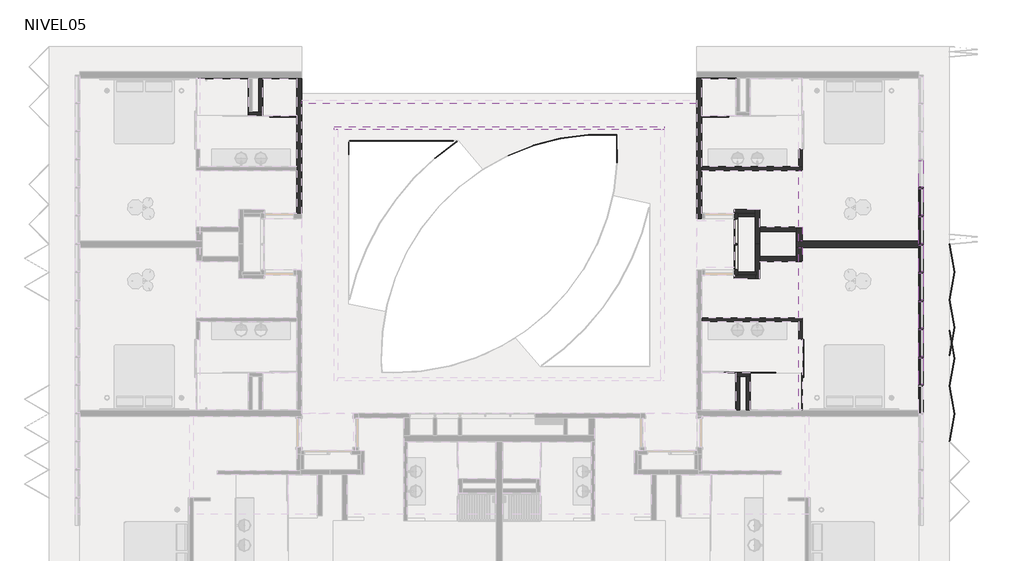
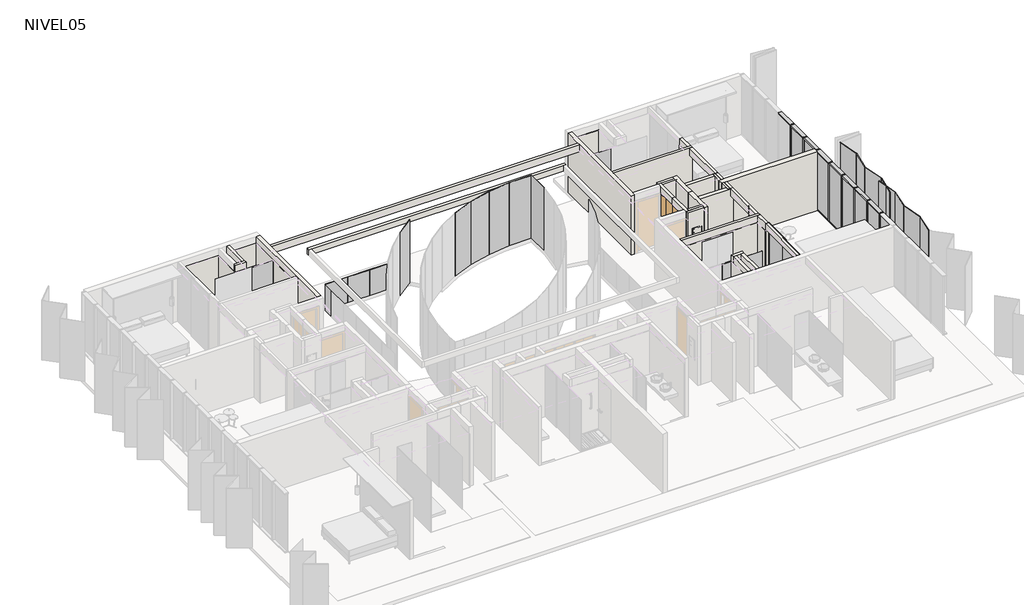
# One storey, part 6 of 8: 42 walls, 25 plates, 24 members, 2 doors.
"""IFC4 building model written with IfcOpenShell, lengths in millimetres."""

from ifc_helpers import new_model, si_unit, frame, origin, place, context, project, spatial, polyline, outline, extrude, faceted_brep, transform, mapped, element, save
from components import puerta_closet_shaft_82_5_x_224cm_10222c01, puerta_closet_shaft_82_5_x_224cm_6ba6ac82, rectangular_mullion_50_x_150mm_324a6438, rectangular_mullion_50_x_150mm_33c2bde1, folding_hd_folding_hd_10_cf69813b, panel_corredera_cr_panel_corredera_1cb9417a, panel_corredera_cr_panel_corredera_99e605cf, panel_corredera_cr_panel_corredera_8db39db7, system_panel_5ccbd7a3, system_panel_34dc83f9, system_panel_bb99d6db, system_panel_8f9a12f6, system_panel_d16f8cfc, system_panel_cr_shower_402713e2, system_panel_cr_shower_685ec66b, system_panel_glazed_6ccc6dc1

model = new_model("IFC4")

# Units and contexts
model_context = context("Model", 3, world=origin())
ifc_project = project(units=[si_unit("LENGTHUNIT", "METRE", prefix="MILLI")], contexts=[model_context])

# Site, building, storey
site = spatial("IfcSite", under=ifc_project)
building = spatial("IfcBuilding", under=site)
storey = spatial("IfcBuildingStorey", under=building, Name="NIVEL05", Elevation=10660.0)

# Doors
placement = place(None, origin())
puerta_closet_shaft_82_5_x_224cm_shape = puerta_closet_shaft_82_5_x_224cm_10222c01(model_context)
element("IfcDoor", 1, ObjectType="PUERTA CLOSET SHAFT : 82.5 x 224cm", at=placement, inside=storey, context=model_context, shape_type="MappedRepresentation", body=[
    mapped(puerta_closet_shaft_82_5_x_224cm_shape, transform((361.4065252, 5862.9454949, 10660.0), x_axis=(0.0, 1.0, 0.0), y_axis=(-1.0, 0.0, 0.0), z_axis=(0.0, 0.0, 1.0))),
])
puerta_closet_shaft_82_5_x_224cm_2_shape = puerta_closet_shaft_82_5_x_224cm_6ba6ac82(model_context)
element("IfcDoor", 2, ObjectType="PUERTA CLOSET SHAFT : 82.5 x 224cm", at=placement, inside=storey, context=model_context, shape_type="MappedRepresentation", body=[
    mapped(puerta_closet_shaft_82_5_x_224cm_2_shape, transform((361.4065252, 4404.8823532, 10660.0), x_axis=(0.0, -1.0, 0.0), y_axis=(1.0, 0.0, 0.0), z_axis=(0.0, 0.0, 1.0))),
])

# Members
rectangular_mullion_50_x_150mm_shape = rectangular_mullion_50_x_150mm_324a6438(model_context)
element("IfcMember", 3, ObjectType="Rectangular Mullion : 50 x 150mm", at=placement, inside=storey, context=model_context, shape_type="MappedRepresentation", body=[
    mapped(rectangular_mullion_50_x_150mm_shape, transform((6266.4065252, 6958.9139237, 13210.0), x_axis=(0.0, 0.0, 1.0), y_axis=(-1.0, 0.0, 0.0), z_axis=(0.0, -1.0, 0.0))),
])
element("IfcMember", 4, ObjectType="Rectangular Mullion : 50 x 150mm", at=placement, inside=storey, context=model_context, shape_type="MappedRepresentation", body=[
    mapped(rectangular_mullion_50_x_150mm_shape, transform((6266.4065252, 6058.9139237, 13210.0), x_axis=(0.0, 0.0, 1.0), y_axis=(-1.0, 0.0, 0.0), z_axis=(0.0, -1.0, 0.0))),
])
element("IfcMember", 5, ObjectType="Rectangular Mullion : 50 x 150mm", at=placement, inside=storey, context=model_context, shape_type="MappedRepresentation", body=[
    mapped(rectangular_mullion_50_x_150mm_shape, transform((6266.4065252, 5158.9139237, 13210.0), x_axis=(0.0, 0.0, 1.0), y_axis=(-1.0, 0.0, 0.0), z_axis=(0.0, -1.0, 0.0))),
])
element("IfcMember", 6, ObjectType="Rectangular Mullion : 50 x 150mm", at=placement, inside=storey, context=model_context, shape_type="MappedRepresentation", body=[
    mapped(rectangular_mullion_50_x_150mm_shape, transform((6266.4065252, 4258.9139237, 13210.0), x_axis=(0.0, 0.0, 1.0), y_axis=(-1.0, 0.0, 0.0), z_axis=(0.0, -1.0, 0.0))),
])
element("IfcMember", 7, ObjectType="Rectangular Mullion : 50 x 150mm", at=placement, inside=storey, context=model_context, shape_type="MappedRepresentation", body=[
    mapped(rectangular_mullion_50_x_150mm_shape, transform((6266.4065252, 3358.9139237, 13210.0), x_axis=(0.0, 0.0, 1.0), y_axis=(-1.0, 0.0, 0.0), z_axis=(0.0, -1.0, 0.0))),
])
element("IfcMember", 8, ObjectType="Rectangular Mullion : 50 x 150mm", at=placement, inside=storey, context=model_context, shape_type="MappedRepresentation", body=[
    mapped(rectangular_mullion_50_x_150mm_shape, transform((6266.4065252, 2458.9139237, 13210.0), x_axis=(0.0, 0.0, 1.0), y_axis=(-1.0, 0.0, 0.0), z_axis=(0.0, -1.0, 0.0))),
])
element("IfcMember", 9, ObjectType="Rectangular Mullion : 50 x 150mm", at=placement, inside=storey, context=model_context, shape_type="MappedRepresentation", body=[
    mapped(rectangular_mullion_50_x_150mm_shape, transform((6266.4065252, 1558.9139237, 13210.0), x_axis=(0.0, 0.0, 1.0), y_axis=(-1.0, 0.0, 0.0), z_axis=(0.0, -1.0, 0.0))),
])
element("IfcMember", 10, ObjectType="Rectangular Mullion : 50 x 150mm", at=placement, inside=storey, context=model_context, shape_type="MappedRepresentation", body=[
    mapped(rectangular_mullion_50_x_150mm_shape, transform((6266.4065252, 658.9139237, 13210.0), x_axis=(0.0, 0.0, 1.0), y_axis=(-1.0, 0.0, 0.0), z_axis=(0.0, -1.0, 0.0))),
])
element("IfcMember", 11, ObjectType="Rectangular Mullion : 50 x 150mm", at=placement, inside=storey, context=model_context, shape_type="MappedRepresentation", body=[
    mapped(rectangular_mullion_50_x_150mm_shape, transform((6266.4065252, 6908.9139237, 10640.0), x_axis=(0.0, 0.0, -1.0), y_axis=(-1.0, 0.0, 0.0), z_axis=(0.0, 1.0, 0.0))),
])
element("IfcMember", 12, ObjectType="Rectangular Mullion : 50 x 150mm", at=placement, inside=storey, context=model_context, shape_type="MappedRepresentation", body=[
    mapped(rectangular_mullion_50_x_150mm_shape, transform((6266.4065252, 6008.9139237, 10640.0), x_axis=(0.0, 0.0, -1.0), y_axis=(-1.0, 0.0, 0.0), z_axis=(0.0, 1.0, 0.0))),
])
element("IfcMember", 13, ObjectType="Rectangular Mullion : 50 x 150mm", at=placement, inside=storey, context=model_context, shape_type="MappedRepresentation", body=[
    mapped(rectangular_mullion_50_x_150mm_shape, transform((6266.4065252, 5108.9139237, 10640.0), x_axis=(0.0, 0.0, -1.0), y_axis=(-1.0, 0.0, 0.0), z_axis=(0.0, 1.0, 0.0))),
])
element("IfcMember", 14, ObjectType="Rectangular Mullion : 50 x 150mm", at=placement, inside=storey, context=model_context, shape_type="MappedRepresentation", body=[
    mapped(rectangular_mullion_50_x_150mm_shape, transform((6266.4065252, 4208.9139237, 10640.0), x_axis=(0.0, 0.0, -1.0), y_axis=(-1.0, 0.0, 0.0), z_axis=(0.0, 1.0, 0.0))),
])
element("IfcMember", 15, ObjectType="Rectangular Mullion : 50 x 150mm", at=placement, inside=storey, context=model_context, shape_type="MappedRepresentation", body=[
    mapped(rectangular_mullion_50_x_150mm_shape, transform((6266.4065252, 3308.9139237, 10640.0), x_axis=(0.0, 0.0, -1.0), y_axis=(-1.0, 0.0, 0.0), z_axis=(0.0, 1.0, 0.0))),
])
element("IfcMember", 16, ObjectType="Rectangular Mullion : 50 x 150mm", at=placement, inside=storey, context=model_context, shape_type="MappedRepresentation", body=[
    mapped(rectangular_mullion_50_x_150mm_shape, transform((6266.4065252, 2408.9139237, 10640.0), x_axis=(0.0, 0.0, -1.0), y_axis=(-1.0, 0.0, 0.0), z_axis=(0.0, 1.0, 0.0))),
])
element("IfcMember", 17, ObjectType="Rectangular Mullion : 50 x 150mm", at=placement, inside=storey, context=model_context, shape_type="MappedRepresentation", body=[
    mapped(rectangular_mullion_50_x_150mm_shape, transform((6266.4065252, 1508.9139237, 10640.0), x_axis=(0.0, 0.0, -1.0), y_axis=(-1.0, 0.0, 0.0), z_axis=(0.0, 1.0, 0.0))),
])
element("IfcMember", 18, ObjectType="Rectangular Mullion : 50 x 150mm", at=placement, inside=storey, context=model_context, shape_type="MappedRepresentation", body=[
    mapped(rectangular_mullion_50_x_150mm_shape, transform((6266.4065252, 608.9139237, 10640.0), x_axis=(0.0, 0.0, -1.0), y_axis=(-1.0, 0.0, 0.0), z_axis=(0.0, 1.0, 0.0))),
])
rectangular_mullion_50_x_150mm_2_shape = rectangular_mullion_50_x_150mm_33c2bde1(model_context)
element("IfcMember", 19, ObjectType="Rectangular Mullion : 50 x 150mm", at=placement, inside=storey, context=model_context, shape_type="MappedRepresentation", body=[
    mapped(rectangular_mullion_50_x_150mm_2_shape, transform((6266.4065252, 6933.9139237, 10640.0), x_axis=(0.0, -1.0, 0.0), y_axis=(-1.0, 0.0, 0.0), z_axis=(0.0, 0.0, -1.0))),
])
element("IfcMember", 20, ObjectType="Rectangular Mullion : 50 x 150mm", at=placement, inside=storey, context=model_context, shape_type="MappedRepresentation", body=[
    mapped(rectangular_mullion_50_x_150mm_2_shape, transform((6266.4065252, 6033.9139237, 10640.0), x_axis=(0.0, -1.0, 0.0), y_axis=(-1.0, 0.0, 0.0), z_axis=(0.0, 0.0, -1.0))),
])
element("IfcMember", 21, ObjectType="Rectangular Mullion : 50 x 150mm", at=placement, inside=storey, context=model_context, shape_type="MappedRepresentation", body=[
    mapped(rectangular_mullion_50_x_150mm_2_shape, transform((6266.4065252, 5133.9139237, 10640.0), x_axis=(0.0, -1.0, 0.0), y_axis=(-1.0, 0.0, 0.0), z_axis=(0.0, 0.0, -1.0))),
])
element("IfcMember", 22, ObjectType="Rectangular Mullion : 50 x 150mm", at=placement, inside=storey, context=model_context, shape_type="MappedRepresentation", body=[
    mapped(rectangular_mullion_50_x_150mm_2_shape, transform((6266.4065252, 4233.9139237, 10640.0), x_axis=(0.0, -1.0, 0.0), y_axis=(-1.0, 0.0, 0.0), z_axis=(0.0, 0.0, -1.0))),
])
element("IfcMember", 23, ObjectType="Rectangular Mullion : 50 x 150mm", at=placement, inside=storey, context=model_context, shape_type="MappedRepresentation", body=[
    mapped(rectangular_mullion_50_x_150mm_2_shape, transform((6266.4065252, 3333.9139237, 10640.0), x_axis=(0.0, -1.0, 0.0), y_axis=(-1.0, 0.0, 0.0), z_axis=(0.0, 0.0, -1.0))),
])
element("IfcMember", 24, ObjectType="Rectangular Mullion : 50 x 150mm", at=placement, inside=storey, context=model_context, shape_type="MappedRepresentation", body=[
    mapped(rectangular_mullion_50_x_150mm_2_shape, transform((6266.4065252, 2433.9139237, 10640.0), x_axis=(0.0, -1.0, 0.0), y_axis=(-1.0, 0.0, 0.0), z_axis=(0.0, 0.0, -1.0))),
])
element("IfcMember", 25, ObjectType="Rectangular Mullion : 50 x 150mm", at=placement, inside=storey, context=model_context, shape_type="MappedRepresentation", body=[
    mapped(rectangular_mullion_50_x_150mm_2_shape, transform((6266.4065252, 1533.9139237, 10640.0), x_axis=(0.0, -1.0, 0.0), y_axis=(-1.0, 0.0, 0.0), z_axis=(0.0, 0.0, -1.0))),
])
element("IfcMember", 26, ObjectType="Rectangular Mullion : 50 x 150mm", at=placement, inside=storey, context=model_context, shape_type="MappedRepresentation", body=[
    mapped(rectangular_mullion_50_x_150mm_2_shape, transform((6266.4065252, 633.9139237, 10640.0), x_axis=(0.0, -1.0, 0.0), y_axis=(-1.0, 0.0, 0.0), z_axis=(0.0, 0.0, -1.0))),
])

# Plates
folding_hd_folding_hd_10_shape = folding_hd_folding_hd_10_cf69813b(model_context)
element("IfcPlate", 27, ObjectType="FOLDING HD : FOLDING HD 10", at=placement, inside=storey, context=model_context, shape_type="MappedRepresentation", body=[
    mapped(folding_hd_folding_hd_10_shape, transform((7166.4065252, 1983.9139241, 10640.0), x_axis=(0.0, -1.0, 0.0), y_axis=(1.0, 0.0, 0.0), z_axis=(0.0, 0.0, 1.0))),
])
panel_corredera_cr_panel_corredera_shape = panel_corredera_cr_panel_corredera_1cb9417a(model_context)
element("IfcPlate", 28, ObjectType="PANEL CORREDERA : CR_PANEL CORREDERA", at=placement, inside=storey, context=model_context, shape_type="MappedRepresentation", body=[
    mapped(panel_corredera_cr_panel_corredera_shape, transform((-372.2601415, 9233.9139241, 10660.0), x_axis=(1.0, 0.0, 0.0), y_axis=(0.0, 1.0, 0.0), z_axis=(0.0, 0.0, 1.0))),
])
panel_corredera_cr_panel_corredera_2_shape = panel_corredera_cr_panel_corredera_99e605cf(model_context)
element("IfcPlate", 29, ObjectType="PANEL CORREDERA : CR_PANEL CORREDERA", at=placement, inside=storey, context=model_context, shape_type="MappedRepresentation", body=[
    mapped(panel_corredera_cr_panel_corredera_2_shape, transform((-13994.9268082, 9233.9139241, 10660.0), x_axis=(-1.0, 0.0, 0.0), y_axis=(0.0, -1.0, 0.0), z_axis=(0.0, 0.0, 1.0))),
])
panel_corredera_cr_panel_corredera_3_shape = panel_corredera_cr_panel_corredera_8db39db7(model_context)
element("IfcPlate", 30, ObjectType="PANEL CORREDERA : CR_PANEL CORREDERA", at=placement, inside=storey, context=model_context, shape_type="MappedRepresentation", body=[
    mapped(panel_corredera_cr_panel_corredera_3_shape, transform((2481.4065252, 1563.9139241, 10660.0), x_axis=(0.0, -1.0, 0.0), y_axis=(1.0, 0.0, 0.0), z_axis=(0.0, 0.0, 1.0))),
])
system_panel_shape = system_panel_5ccbd7a3(model_context)
element("IfcPlate", 31, ObjectType="System Panel : CR-BARANDA", at=placement, inside=storey, context=model_context, shape_type="MappedRepresentation", body=[
    mapped(system_panel_shape, transform((-11507.3434747, 8433.9139241, 10660.0), x_axis=(1.0, 0.0, 0.0), y_axis=(0.0, 1.0, 0.0), z_axis=(0.0, 0.0, 1.0))),
])
element("IfcPlate", 32, ObjectType="System Panel : CR-BARANDA", at=placement, inside=storey, context=model_context, shape_type="MappedRepresentation", body=[
    mapped(system_panel_shape, transform((-10607.3434745, 8433.9139241, 10660.0), x_axis=(1.0, 0.0, 0.0), y_axis=(0.0, 1.0, 0.0), z_axis=(0.0, 0.0, 1.0))),
])
element("IfcPlate", 33, ObjectType="System Panel : CR-BARANDA", at=placement, inside=storey, context=model_context, shape_type="MappedRepresentation", body=[
    mapped(system_panel_shape, transform((-9707.3434745, 8433.9139241, 10660.0), x_axis=(1.0, 0.0, 0.0), y_axis=(0.0, 1.0, 0.0), z_axis=(0.0, 0.0, 1.0))),
])
system_panel_2_shape = system_panel_34dc83f9(model_context)
element("IfcPlate", 34, ObjectType="System Panel : CR-BARANDA", at=placement, inside=storey, context=model_context, shape_type="MappedRepresentation", body=[
    mapped(system_panel_2_shape, transform((-8954.8434747, 8433.9139241, 10660.0), x_axis=(1.0, 0.0, 0.0), y_axis=(0.0, 1.0, 0.0), z_axis=(0.0, 0.0, 1.0))),
])
system_panel_3_shape = system_panel_bb99d6db(model_context)
element("IfcPlate", 35, ObjectType="System Panel : CR-BARANDA", at=placement, inside=storey, context=model_context, shape_type="MappedRepresentation", body=[
    mapped(system_panel_3_shape, transform((-11983.5934748, 8189.0707631, 10660.0), x_axis=(0.0, 1.0, 0.0), y_axis=(-1.0, 0.0, 0.0), z_axis=(0.0, 0.0, 1.0))),
])
system_panel_4_shape = system_panel_8f9a12f6(model_context)
element("IfcPlate", 36, ObjectType="System Panel : CR-BARANDA", at=placement, inside=storey, context=model_context, shape_type="MappedRepresentation", body=[
    mapped(system_panel_4_shape, transform((-3889.1158289, 8621.3139577, 10660.0), x_axis=(-0.9999985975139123, 0.0016748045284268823, 0.0), y_axis=(-0.0016748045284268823, -0.9999985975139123, 0.0), z_axis=(0.0, 0.0, 1.0))),
])
system_panel_5_shape = system_panel_d16f8cfc(model_context)
element("IfcPlate", 37, ObjectType="System Panel : CR-BARANDA", at=placement, inside=storey, context=model_context, shape_type="MappedRepresentation", body=[
    mapped(system_panel_5_shape, transform((-4785.5416487, 8565.4687941, 10660.0), x_axis=(-0.9920587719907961, -0.1257751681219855, 0.0), y_axis=(0.1257751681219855, -0.9920587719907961, 0.0), z_axis=(0.0, 0.0, 1.0))),
])
element("IfcPlate", 38, ObjectType="System Panel : CR-BARANDA", at=placement, inside=storey, context=model_context, shape_type="MappedRepresentation", body=[
    mapped(system_panel_5_shape, transform((-5667.541953, 8395.8415861, 10660.0), x_axis=(-0.9679419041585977, -0.25117418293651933, 0.0), y_axis=(0.25117418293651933, -0.9679419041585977, 0.0), z_axis=(0.0, 0.0, 1.0))),
])
element("IfcPlate", 39, ObjectType="System Panel : CR-BARANDA", at=placement, inside=storey, context=model_context, shape_type="MappedRepresentation", body=[
    mapped(system_panel_5_shape, transform((-6520.7343753, 8115.1983662, 10660.0), x_axis=(-0.9280412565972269, -0.37247741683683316, 0.0), y_axis=(0.37247741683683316, -0.9280412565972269, 0.0), z_axis=(0.0, 0.0, 1.0))),
])
element("IfcPlate", 40, ObjectType="System Panel : CR-BARANDA", at=placement, inside=storey, context=model_context, shape_type="MappedRepresentation", body=[
    mapped(system_panel_4_shape, transform((-8888.7580194, 8141.1767332, 10660.0), x_axis=(-0.7957364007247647, -0.6056431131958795, 0.0), y_axis=(0.6056431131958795, -0.7957364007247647, 0.0), z_axis=(0.0, 0.0, 1.0))),
])
element("IfcPlate", 41, ObjectType="System Panel : CR-BARANDA", at=placement, inside=storey, context=model_context, shape_type="MappedRepresentation", body=[
    mapped(system_panel_4_shape, transform((-3433.3235969, 8170.5975795, 10660.0), x_axis=(0.012873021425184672, -0.9999171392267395, 0.0), y_axis=(0.9999171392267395, 0.012873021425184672, 0.0), z_axis=(0.0, 0.0, 1.0))),
])
system_panel_cr_shower_shape = system_panel_cr_shower_402713e2(model_context)
element("IfcPlate", 42, ObjectType="System Panel : CR-SHOWER", at=placement, inside=storey, context=model_context, shape_type="MappedRepresentation", body=[
    mapped(system_panel_cr_shower_shape, transform((811.7398585, 1033.9139241, 10660.0), x_axis=(-1.0, 0.0, 0.0), y_axis=(0.0, -1.0, 0.0), z_axis=(0.0, 0.0, 1.0))),
])
system_panel_cr_shower_2_shape = system_panel_cr_shower_685ec66b(model_context)
element("IfcPlate", 43, ObjectType="System Panel : CR-SHOWER", at=placement, inside=storey, context=model_context, shape_type="MappedRepresentation", body=[
    mapped(system_panel_cr_shower_2_shape, transform((2481.4065252, 433.9139241, 10660.0), x_axis=(0.0, -1.0, 0.0), y_axis=(1.0, 0.0, 0.0), z_axis=(0.0, 0.0, 1.0))),
])
system_panel_glazed_shape = system_panel_glazed_6ccc6dc1(model_context)
element("IfcPlate", 44, ObjectType="System Panel : Glazed", at=placement, inside=storey, context=model_context, shape_type="MappedRepresentation", body=[
    mapped(system_panel_glazed_shape, transform((6266.4065252, 6483.9139237, 10690.0), x_axis=(0.0, -1.0, 0.0), y_axis=(1.0, 0.0, 0.0), z_axis=(0.0, 0.0, 1.0))),
])
element("IfcPlate", 45, ObjectType="System Panel : Glazed", at=placement, inside=storey, context=model_context, shape_type="MappedRepresentation", body=[
    mapped(system_panel_glazed_shape, transform((6266.4065252, 5583.9139237, 10690.0), x_axis=(0.0, -1.0, 0.0), y_axis=(1.0, 0.0, 0.0), z_axis=(0.0, 0.0, 1.0))),
])
element("IfcPlate", 46, ObjectType="System Panel : Glazed", at=placement, inside=storey, context=model_context, shape_type="MappedRepresentation", body=[
    mapped(system_panel_glazed_shape, transform((6266.4065252, 4683.9139237, 10690.0), x_axis=(0.0, -1.0, 0.0), y_axis=(1.0, 0.0, 0.0), z_axis=(0.0, 0.0, 1.0))),
])
element("IfcPlate", 47, ObjectType="System Panel : Glazed", at=placement, inside=storey, context=model_context, shape_type="MappedRepresentation", body=[
    mapped(system_panel_glazed_shape, transform((6266.4065252, 3783.9139237, 10690.0), x_axis=(0.0, -1.0, 0.0), y_axis=(1.0, 0.0, 0.0), z_axis=(0.0, 0.0, 1.0))),
])
element("IfcPlate", 48, ObjectType="System Panel : Glazed", at=placement, inside=storey, context=model_context, shape_type="MappedRepresentation", body=[
    mapped(system_panel_glazed_shape, transform((6266.4065252, 2883.9139237, 10690.0), x_axis=(0.0, -1.0, 0.0), y_axis=(1.0, 0.0, 0.0), z_axis=(0.0, 0.0, 1.0))),
])
element("IfcPlate", 49, ObjectType="System Panel : Glazed", at=placement, inside=storey, context=model_context, shape_type="MappedRepresentation", body=[
    mapped(system_panel_glazed_shape, transform((6266.4065252, 1983.9139237, 10690.0), x_axis=(0.0, -1.0, 0.0), y_axis=(1.0, 0.0, 0.0), z_axis=(0.0, 0.0, 1.0))),
])
element("IfcPlate", 50, ObjectType="System Panel : Glazed", at=placement, inside=storey, context=model_context, shape_type="MappedRepresentation", body=[
    mapped(system_panel_glazed_shape, transform((6266.4065252, 1083.9139237, 10690.0), x_axis=(0.0, -1.0, 0.0), y_axis=(1.0, 0.0, 0.0), z_axis=(0.0, 0.0, 1.0))),
])
element("IfcPlate", 51, ObjectType="System Panel : Glazed", at=placement, inside=storey, context=model_context, shape_type="MappedRepresentation", body=[
    mapped(system_panel_glazed_shape, transform((6266.4065252, 183.9139237, 10690.0), x_axis=(0.0, -1.0, 0.0), y_axis=(1.0, 0.0, 0.0), z_axis=(0.0, 0.0, 1.0))),
])

# Walls
element("IfcWall", 52, ObjectType="SCV.TI.A.120.120.122.46.2", at=placement, inside=storey, context=model_context, shape_type="Brep", body=[
    faceted_brep([(-15173.5934748, 9233.9139241, 10640.0), (-14733.5934748, 9233.9139241, 10640.0), (-14733.5934748, 9233.9139241, 13210.0), (-15173.5934748, 9233.9139241, 13210.0), (-15173.5934748, 9353.9139241, 10640.0), (-15173.5934748, 9353.9139241, 13210.0), (-15053.5934748, 9353.9139241, 13210.0), (-14853.5934748, 9353.9139241, 13210.0), (-14733.5934748, 9353.9139241, 13210.0), (-14733.5934748, 9353.9139241, 10640.0), (-14853.5934748, 9353.9139241, 10640.0), (-15053.5934748, 9353.9139241, 10640.0)], [[[0, 1, 2, 3]], [[4, 5, 6, 7, 8, 9, 10, 11]], [[1, 0, 4, 11, 10, 9]], [[3, 2, 8, 7, 6, 5]], [[2, 1, 9, 8]], [[0, 3, 5, 4]]]),
])
element("IfcWall", 53, ObjectType="SCV.TI.A.120.120.122.46.2", at=placement, inside=storey, context=model_context, shape_type="SweptSolid", body=[
    extrude(outline(polyline([(-14733.5934748, 10433.9139241), (-14733.5934748, 9353.9139241), (-14853.5934748, 9353.9139241), (-14853.5934748, 10433.9139241), (-14733.5934748, 10433.9139241)])), frame((0.0, 0.0, 10640.0), z_axis=(0.0, 0.0, 1.0), x_axis=(1.0, 0.0, 0.0)), (0.0, 0.0, 1.0), 2570.0),
])
element("IfcWall", 54, ObjectType="REV-PORCELANATO_60*60", at=placement, inside=storey, context=model_context, shape_type="Brep", body=[
    faceted_brep([(-13633.5934748, 7603.9139241, 10680.0), (-13633.5934748, 10433.9139241, 10680.0), (-13633.5934748, 10433.9139241, 12920.0), (-13633.5934748, 7603.9139241, 12920.0), (-13643.5934748, 7603.9139241, 10680.0), (-13643.5934748, 7603.9139241, 12920.0), (-13643.5934748, 10423.9139241, 12920.0), (-13643.5934748, 10433.9139241, 12920.0), (-13643.5934748, 10433.9139241, 10680.0), (-13643.5934748, 10423.9139241, 10680.0)], [[[0, 1, 2, 3]], [[4, 5, 6, 7, 8, 9]], [[1, 0, 4, 9, 8]], [[3, 2, 7, 6, 5]], [[2, 1, 8, 7]], [[0, 3, 5, 4]]]),
])
element("IfcWall", 55, ObjectType="REV-PORCELANATO_60*60", at=placement, inside=storey, context=model_context, shape_type="Brep", body=[
    faceted_brep([(-13643.5934748, 10433.9139241, 10680.0), (-14733.5934748, 10433.9139241, 10680.0), (-14733.5934748, 10433.9139241, 12920.0), (-13643.5934748, 10433.9139241, 12920.0), (-13643.5934748, 10423.9139241, 10680.0), (-13643.5934748, 10423.9139241, 12920.0), (-14723.5934748, 10423.9139241, 12920.0), (-14733.5934748, 10423.9139241, 12920.0), (-14733.5934748, 10423.9139241, 10680.0), (-14723.5934748, 10423.9139241, 10680.0)], [[[0, 1, 2, 3]], [[4, 5, 6, 7, 8, 9]], [[1, 0, 4, 9, 8]], [[3, 2, 7, 6, 5]], [[2, 1, 8, 7]], [[0, 3, 5, 4]]]),
])
element("IfcWall", 56, ObjectType="REV-PORCELANATO_60*60", at=placement, inside=storey, context=model_context, shape_type="SweptSolid", body=[
    extrude(outline(polyline([(-14723.5934748, 10423.9139241), (-14723.5934748, 9233.9139241), (-14733.5934748, 9233.9139241), (-14733.5934748, 10423.9139241), (-14723.5934748, 10423.9139241)])), frame((0.0, 0.0, 10680.0), z_axis=(0.0, 0.0, 1.0), x_axis=(1.0, 0.0, 0.0)), (0.0, 0.0, 1.0), 2240.0),
])
element("IfcWall", 57, ObjectType="REV-PORCELANATO_60*60", at=placement, inside=storey, context=model_context, shape_type="Brep", body=[
    faceted_brep([(-15173.5934748, 9233.9139241, 10660.0), (-15173.5934748, 10433.9139241, 10660.0), (-15173.5934748, 10433.9139241, 12920.0), (-15173.5934748, 9233.9139241, 12920.0), (-15183.5934748, 9233.9139241, 10660.0), (-15183.5934748, 9233.9139241, 12920.0), (-15183.5934748, 10423.9139241, 12920.0), (-15183.5934748, 10433.9139241, 12920.0), (-15183.5934748, 10433.9139241, 10660.0), (-15183.5934748, 10423.9139241, 10660.0)], [[[0, 1, 2, 3]], [[4, 5, 6, 7, 8, 9]], [[1, 0, 4, 9, 8]], [[3, 2, 7, 6, 5]], [[0, 3, 5, 4]], [[2, 1, 8, 7]]]),
])
element("IfcWall", 58, ObjectType="REV-PORCELANATO_60*60", at=placement, inside=storey, context=model_context, shape_type="SweptSolid", body=[
    extrude(outline(polyline([(-16793.5934748, 10433.9139241), (-15183.5934748, 10433.9139241), (-15183.5934748, 10423.9139241), (-16793.5934748, 10423.9139241), (-16793.5934748, 10433.9139241)])), frame((0.0, 0.0, 10660.0), z_axis=(0.0, 0.0, 1.0), x_axis=(1.0, 0.0, 0.0)), (0.0, 0.0, 1.0), 2260.0),
])
element("IfcWall", 59, ObjectType="SCV.TI.A.150.120.212.47.1", at=placement, inside=storey, context=model_context, shape_type="Brep", body=[
    faceted_brep([(-13483.5934748, 6108.9139241, 10640.0), (-13483.5934748, 10433.9139241, 10640.0), (-13483.5934748, 10433.9139241, 13210.0), (-13483.5934748, 9733.9139241, 13210.0), (-13483.5934748, 9623.9139241, 13210.0), (-13483.5934748, 6108.9139241, 13210.0), (-13633.5934748, 6108.9139241, 10640.0), (-13633.5934748, 6108.9139241, 13210.0), (-13633.5934748, 7483.9139241, 13210.0), (-13633.5934748, 7593.9139241, 13210.0), (-13633.5934748, 10433.9139241, 13210.0), (-13633.5934748, 10433.9139241, 10640.0), (-13633.5934748, 7593.9139241, 10640.0), (-13633.5934748, 7483.9139241, 10640.0)], [[[0, 1, 2, 3, 4, 5]], [[6, 7, 8, 9, 10, 11, 12, 13]], [[1, 0, 6, 13, 12, 11]], [[5, 4, 3, 2, 10, 9, 8, 7]], [[2, 1, 11, 10]], [[0, 5, 7, 6]]]),
])
element("IfcWall", 60, ObjectType="SCV.TI.A.150.120.212.47.1", at=placement, inside=storey, context=model_context, shape_type="Brep", body=[
    faceted_brep([(-733.5934748, 5958.9139241, 10640.0), (-733.5934748, 6108.9139241, 10640.0), (-733.5934748, 7483.9139241, 10640.0), (-733.5934748, 7593.9139241, 10640.0), (-733.5934748, 10433.9139241, 10640.0), (-733.5934748, 10433.9139241, 13210.0), (-733.5934748, 7593.9139241, 13210.0), (-733.5934748, 7483.9139241, 13210.0), (-733.5934748, 6108.9139241, 13210.0), (-733.5934748, 5958.9139241, 13210.0), (-883.5934748, 5958.9139241, 10640.0), (-883.5934748, 5958.9139241, 13210.0), (-883.5934748, 9623.9139241, 13210.0), (-883.5934748, 9733.9139241, 13210.0), (-883.5934748, 10433.9139241, 13210.0), (-883.5934748, 10433.9139241, 10640.0)], [[[0, 1, 2, 3, 4, 5, 6, 7, 8, 9]], [[10, 11, 12, 13, 14, 15]], [[4, 3, 2, 1, 0, 10, 15]], [[9, 8, 7, 6, 5, 14, 13, 12, 11]], [[0, 9, 11, 10]], [[5, 4, 15, 14]]]),
])
element("IfcWall", 61, ObjectType="SCV.TI.A.110.090.143.47.1 2", at=placement, inside=storey, context=model_context, shape_type="Brep", body=[
    faceted_brep([(-12443.5934748, 8893.9139241, 13210.0), (-1923.5934748, 8893.9139241, 13210.0), (-1923.5934748, 8893.9139241, 12965.0), (-12443.5934748, 8893.9139241, 12965.0), (-1923.5934748, 8783.9139241, 13210.0), (-2033.5934748, 8783.9139241, 13210.0), (-12333.5934748, 8783.9139241, 13210.0), (-12443.5934748, 8783.9139241, 13210.0), (-12443.5934748, 8783.9139241, 12965.0), (-12333.5934748, 8783.9139241, 12965.0), (-2033.5934748, 8783.9139241, 12965.0), (-1923.5934748, 8783.9139241, 12965.0)], [[[0, 1, 2, 3]], [[4, 5, 6, 7, 8, 9, 10, 11]], [[1, 0, 7, 6, 5, 4]], [[7, 0, 3, 8]], [[1, 4, 11, 2]], [[3, 2, 11, 10, 9, 8]]]),
])
element("IfcWall", 62, ObjectType="SCV.TI.A.110.090.143.47.1 2", at=placement, inside=storey, context=model_context, shape_type="SweptSolid", body=[
    extrude(outline(polyline([(-13483.5934748, 9733.9139241), (-883.5934748, 9733.9139241), (-883.5934748, 9623.9139241), (-13483.5934748, 9623.9139241), (-13483.5934748, 9733.9139241)])), frame((0.0, 0.0, 12910.0), z_axis=(0.0, 0.0, 1.0), x_axis=(1.0, 0.0, 0.0)), (0.0, 0.0, 1.0), 300.0),
])
element("IfcWall", 63, ObjectType="SCV.TI.A.110.090.143.47.1", at=placement, inside=storey, context=model_context, shape_type="Brep", body=[
    faceted_brep([(306.4065252, 6123.9139241, 10640.0), (306.4065252, 6108.9139241, 10640.0), (306.4065252, 5958.9139241, 10640.0), (306.4065252, 5128.3504322, 10640.0), (306.4065252, 5128.3504322, 10660.0), (306.4065252, 5958.9139241, 10660.0), (306.4065252, 5958.9139241, 12900.0), (306.4065252, 5128.3504322, 12900.0), (306.4065252, 5128.3504322, 13210.0), (306.4065252, 5958.9139241, 13210.0), (306.4065252, 6108.9139241, 13210.0), (306.4065252, 6123.9139241, 13210.0), (416.4065252, 5128.3504322, 10640.0), (416.4065252, 6013.9139241, 10640.0), (416.4065252, 6123.9139241, 10640.0), (416.4065252, 6123.9139241, 13210.0), (416.4065252, 6013.9139241, 13210.0), (416.4065252, 5128.3504322, 13210.0), (416.4065252, 5128.3504322, 12900.0), (416.4065252, 5958.9139241, 12900.0), (416.4065252, 5958.9139241, 10660.0), (416.4065252, 5128.3504322, 10660.0)], [[[0, 1, 2, 3, 4, 5, 6, 7, 8, 9, 10, 11]], [[12, 13, 14, 15, 16, 17, 18, 19, 20, 21]], [[3, 2, 1, 0, 14, 13, 12]], [[17, 8, 7, 18]], [[3, 12, 21, 4]], [[11, 10, 9, 8, 17, 16, 15]], [[6, 19, 18, 7]], [[20, 5, 4, 21]], [[5, 20, 19, 6]], [[0, 11, 15, 14]]]),
])
element("IfcWall", 64, ObjectType="SCV.TI.A.110.090.143.47.1", at=placement, inside=storey, context=model_context, shape_type="Brep", body=[
    faceted_brep([(-733.5934748, 7483.9139241, 10640.0), (2481.4065252, 7483.9139241, 10640.0), (2481.4065252, 7483.9139241, 12910.0), (2481.4065252, 7483.9139241, 13210.0), (2371.4065252, 7483.9139241, 13210.0), (-733.5934748, 7483.9139241, 13210.0), (-733.5934748, 7593.9139241, 10640.0), (-733.5934748, 7593.9139241, 13210.0), (2371.4065252, 7593.9139241, 13210.0), (2481.4065252, 7593.9139241, 13210.0), (2481.4065252, 7593.9139241, 10640.0), (2371.4065252, 7593.9139241, 10640.0)], [[[0, 1, 2, 3, 4, 5]], [[6, 7, 8, 9, 10, 11]], [[1, 0, 6, 11, 10]], [[5, 4, 3, 9, 8, 7]], [[3, 2, 1, 10, 9]], [[0, 5, 7, 6]]]),
])
element("IfcWall", 65, ObjectType="SCV.TI.A.110.090.143.47.1", at=placement, inside=storey, context=model_context, shape_type="Brep", body=[
    faceted_brep([(306.4065252, 6123.9139241, 10640.0), (416.4065252, 6123.9139241, 10640.0), (976.4065252, 6123.9139241, 10640.0), (976.4065252, 6123.9139241, 13210.0), (416.4065252, 6123.9139241, 13210.0), (306.4065252, 6123.9139241, 13210.0), (306.4065252, 6233.9139241, 10640.0), (306.4065252, 6233.9139241, 13210.0), (976.4065252, 6233.9139241, 13210.0), (976.4065252, 6233.9139241, 10640.0)], [[[0, 1, 2, 3, 4, 5]], [[6, 7, 8, 9]], [[2, 1, 0, 6, 9]], [[5, 4, 3, 8, 7]], [[0, 5, 7, 6]], [[3, 2, 9, 8]]]),
])
element("IfcWall", 66, ObjectType="SCV.TI.A.110.090.143.47.1", at=placement, inside=storey, context=model_context, shape_type="Brep", body=[
    faceted_brep([(2481.4065252, 7593.9139241, 13210.0), (2481.4065252, 7593.9139241, 10640.0), (2481.4065252, 8173.9139241, 10640.0), (2481.4065252, 8173.9139241, 13210.0), (2371.4065252, 7593.9139241, 10640.0), (2371.4065252, 7593.9139241, 13210.0), (2371.4065252, 8173.9139241, 13210.0), (2371.4065252, 8173.9139241, 12965.0), (2371.4065252, 8173.9139241, 10640.0)], [[[0, 1, 2, 3]], [[4, 5, 6, 7, 8]], [[2, 1, 4, 8]], [[3, 2, 8, 7, 6]], [[0, 3, 6, 5]], [[0, 5, 4, 1]]]),
])
element("IfcWall", 67, ObjectType="REV-PORCELANATO_60*60", at=placement, inside=storey, context=model_context, shape_type="Brep", body=[
    faceted_brep([(2371.4065252, 7593.9139241, 10680.0), (2371.4065252, 8173.9139241, 10680.0), (2371.4065252, 8173.9139241, 12920.0), (2371.4065252, 7593.9139241, 12920.0), (2361.4065252, 7593.9139241, 10680.0), (2361.4065252, 7593.9139241, 12920.0), (2361.4065252, 7603.9139241, 12920.0), (2361.4065252, 8173.9139241, 12920.0), (2361.4065252, 8173.9139241, 10680.0), (2361.4065252, 7603.9139241, 10680.0)], [[[0, 1, 2, 3]], [[4, 5, 6, 7, 8, 9]], [[1, 0, 4, 9, 8]], [[2, 1, 8, 7]], [[3, 2, 7, 6, 5]], [[0, 3, 5, 4]]]),
])
element("IfcWall", 68, ObjectType="REV-PORCELANATO_60*60", at=placement, inside=storey, context=model_context, shape_type="Brep", body=[
    faceted_brep([(-733.5934748, 7593.9139241, 10680.0), (2361.4065252, 7593.9139241, 10680.0), (2361.4065252, 7593.9139241, 12920.0), (-733.5934748, 7593.9139241, 12920.0), (-733.5934748, 7603.9139241, 10680.0), (-733.5934748, 7603.9139241, 12920.0), (-723.5934748, 7603.9139241, 12920.0), (2361.4065252, 7603.9139241, 12920.0), (2361.4065252, 7603.9139241, 10680.0), (-723.5934748, 7603.9139241, 10680.0)], [[[0, 1, 2, 3]], [[4, 5, 6, 7, 8, 9]], [[1, 0, 4, 9, 8]], [[3, 2, 7, 6, 5]], [[0, 3, 5, 4]], [[2, 1, 8, 7]]]),
])
element("IfcWall", 69, ObjectType="REV-PORCELANATO_60*60", at=placement, inside=storey, context=model_context, shape_type="Brep", body=[
    faceted_brep([(-723.5934748, 7603.9139241, 10680.0), (-723.5934748, 10423.9139241, 10680.0), (-723.5934748, 10433.9139241, 10680.0), (-723.5934748, 10433.9139241, 12920.0), (-723.5934748, 10423.9139241, 12920.0), (-723.5934748, 7603.9139241, 12920.0), (-733.5934748, 7603.9139241, 10680.0), (-733.5934748, 7603.9139241, 12920.0), (-733.5934748, 10433.9139241, 12920.0), (-733.5934748, 10433.9139241, 10680.0)], [[[0, 1, 2, 3, 4, 5]], [[6, 7, 8, 9]], [[2, 1, 0, 6, 9]], [[5, 4, 3, 8, 7]], [[3, 2, 9, 8]], [[0, 5, 7, 6]]]),
])
element("IfcWall", 70, ObjectType="REV-PORCELANATO_60*60", at=placement, inside=storey, context=model_context, shape_type="Brep", body=[
    faceted_brep([(-723.5934748, 10423.9139241, 10680.0), (356.4065252, 10423.9139241, 10680.0), (366.4065252, 10423.9139241, 10680.0), (366.4065252, 10423.9139241, 12920.0), (356.4065252, 10423.9139241, 12920.0), (-723.5934748, 10423.9139241, 12920.0), (-723.5934748, 10433.9139241, 10680.0), (-723.5934748, 10433.9139241, 12920.0), (366.4065252, 10433.9139241, 12920.0), (366.4065252, 10433.9139241, 10680.0)], [[[0, 1, 2, 3, 4, 5]], [[6, 7, 8, 9]], [[2, 1, 0, 6, 9]], [[5, 4, 3, 8, 7]], [[3, 2, 9, 8]], [[0, 5, 7, 6]]]),
])
element("IfcWall", 71, ObjectType="SCV.TI.A.110.090.143.47.1 2", at=placement, inside=storey, context=model_context, shape_type="SweptSolid", body=[
    extrude(outline(polyline([(2371.4065252, 5233.9139241), (2371.4065252, 7483.9139241), (2481.4065252, 7483.9139241), (2481.4065252, 5233.9139241), (2371.4065252, 5233.9139241)])), frame((0.0, 0.0, 12910.0), z_axis=(0.0, 0.0, 1.0), x_axis=(1.0, 0.0, 0.0)), (0.0, 0.0, 1.0), 300.0),
])
element("IfcWall", 72, ObjectType="SCV.TI.A.110.090.143.47.1", at=placement, inside=storey, context=model_context, shape_type="SweptSolid", body=[
    extrude(outline(polyline([(1006.4065252, 6013.9139241), (416.4065252, 6013.9139241), (416.4065252, 6123.9139241), (1006.4065252, 6123.9139241), (1006.4065252, 6013.9139241)])), frame((0.0, 0.0, 10640.0), z_axis=(0.0, 0.0, 1.0), x_axis=(1.0, 0.0, 0.0)), (0.0, 0.0, 1.0), 2570.0),
])
element("IfcWall", 73, ObjectType="SCV.TI.A.150.120.212.47.1", at=placement, inside=storey, context=model_context, shape_type="Brep", body=[
    faceted_brep([(1126.4065252, 5133.9139241, 10640.0), (1126.4065252, 5533.9139241, 10640.0), (1126.4065252, 5683.9139241, 10640.0), (1126.4065252, 6233.9139241, 10640.0), (1126.4065252, 6233.9139241, 13210.0), (1126.4065252, 5683.9139241, 13210.0), (1126.4065252, 5533.9139241, 13210.0), (1126.4065252, 5133.9139241, 13210.0), (976.4065252, 5133.9139241, 10640.0), (976.4065252, 5133.9139241, 13210.0), (976.4065252, 6123.9139241, 13210.0), (976.4065252, 6233.9139241, 13210.0), (976.4065252, 6233.9139241, 10640.0), (976.4065252, 6123.9139241, 10640.0)], [[[0, 1, 2, 3, 4, 5, 6, 7]], [[8, 9, 10, 11, 12, 13]], [[3, 2, 1, 0, 8, 13, 12]], [[7, 6, 5, 4, 11, 10, 9]], [[0, 7, 9, 8]], [[4, 3, 12, 11]]]),
])
element("IfcWall", 74, ObjectType="SCV.TI.A.150.120.212.47.1", at=placement, inside=storey, context=model_context, shape_type="SweptSolid", body=[
    extrude(outline(polyline([(1126.4065252, 5683.9139241), (2481.4065252, 5683.9139241), (2481.4065252, 5668.9139241), (2281.4065252, 5668.9139241), (2281.4065252, 5533.9139241), (1126.4065252, 5533.9139241), (1126.4065252, 5683.9139241)])), frame((0.0, 0.0, 10640.0), z_axis=(0.0, 0.0, 1.0), x_axis=(1.0, 0.0, 0.0)), (0.0, 0.0, 1.0), 2570.0),
])
element("IfcWall", 75, ObjectType="SCV.TI.A.110.090.143.47.1", at=placement, inside=storey, context=model_context, shape_type="Brep", body=[
    faceted_brep([(416.4065252, 4143.9139241, 10640.0), (416.4065252, 4253.9139241, 10640.0), (416.4065252, 5128.3504322, 10640.0), (416.4065252, 5128.3504322, 10660.0), (416.4065252, 4308.9139241, 10660.0), (416.4065252, 4308.9139241, 12900.0), (416.4065252, 5128.3504322, 12900.0), (416.4065252, 5128.3504322, 13210.0), (416.4065252, 4253.9139241, 13210.0), (416.4065252, 4143.9139241, 13210.0), (306.4065252, 5128.3504322, 10640.0), (306.4065252, 4308.9139241, 10640.0), (306.4065252, 4158.9139241, 10640.0), (306.4065252, 4143.9139241, 10640.0), (306.4065252, 4143.9139241, 13210.0), (306.4065252, 4158.9139241, 13210.0), (306.4065252, 4308.9139241, 13210.0), (306.4065252, 5128.3504322, 13210.0), (306.4065252, 5128.3504322, 12900.0), (306.4065252, 4308.9139241, 12900.0), (306.4065252, 4308.9139241, 10660.0), (306.4065252, 5128.3504322, 10660.0)], [[[0, 1, 2, 3, 4, 5, 6, 7, 8, 9]], [[10, 11, 12, 13, 14, 15, 16, 17, 18, 19, 20, 21]], [[2, 1, 0, 13, 12, 11, 10]], [[17, 7, 6, 18]], [[2, 10, 21, 3]], [[9, 8, 7, 17, 16, 15, 14]], [[5, 19, 18, 6]], [[20, 4, 3, 21]], [[19, 5, 4, 20]], [[0, 9, 14, 13]]]),
])
element("IfcWall", 76, ObjectType="SCV.TI.A.110.090.143.47.1", at=placement, inside=storey, context=model_context, shape_type="Brep", body=[
    faceted_brep([(-733.5934748, 2673.9139241, 10640.0), (2371.4065252, 2673.9139241, 10640.0), (2481.4065252, 2673.9139241, 10640.0), (2481.4065252, 2673.9139241, 13210.0), (2371.4065252, 2673.9139241, 13210.0), (-733.5934748, 2673.9139241, 13210.0), (-733.5934748, 2783.9139241, 10640.0), (-733.5934748, 2783.9139241, 13210.0), (2371.4065252, 2783.9139241, 13210.0), (2481.4065252, 2783.9139241, 13210.0), (2481.4065252, 2783.9139241, 12910.0), (2481.4065252, 2783.9139241, 10640.0)], [[[0, 1, 2, 3, 4, 5]], [[6, 7, 8, 9, 10, 11]], [[2, 1, 0, 6, 11]], [[5, 4, 3, 9, 8, 7]], [[3, 2, 11, 10, 9]], [[0, 5, 7, 6]]]),
])
element("IfcWall", 77, ObjectType="SCV.TI.A.110.090.143.47.1", at=placement, inside=storey, context=model_context, shape_type="Brep", body=[
    faceted_brep([(306.4065252, 4033.9139241, 10640.0), (976.4065252, 4033.9139241, 10640.0), (976.4065252, 4033.9139241, 13210.0), (306.4065252, 4033.9139241, 13210.0), (306.4065252, 4143.9139241, 10640.0), (306.4065252, 4143.9139241, 13210.0), (416.4065252, 4143.9139241, 13210.0), (976.4065252, 4143.9139241, 13210.0), (976.4065252, 4143.9139241, 10640.0), (416.4065252, 4143.9139241, 10640.0)], [[[0, 1, 2, 3]], [[4, 5, 6, 7, 8, 9]], [[1, 0, 4, 9, 8]], [[3, 2, 7, 6, 5]], [[0, 3, 5, 4]], [[2, 1, 8, 7]]]),
])
element("IfcWall", 78, ObjectType="SCV.TI.A.120.120.122.46.2", at=placement, inside=storey, context=model_context, shape_type="SweptSolid", body=[
    extrude(outline(polyline([(806.4065252, 913.9139241), (806.4065252, -166.0860759), (686.4065252, -166.0860759), (686.4065252, 913.9139241), (806.4065252, 913.9139241)])), frame((0.0, 0.0, 10640.0), z_axis=(0.0, 0.0, 1.0), x_axis=(1.0, 0.0, 0.0)), (0.0, 0.0, 1.0), 2570.0),
])
element("IfcWall", 79, ObjectType="SCV.TI.A.120.120.122.46.2", at=placement, inside=storey, context=model_context, shape_type="Brep", body=[
    faceted_brep([(806.4065252, 1033.9139241, 10640.0), (366.4065252, 1033.9139241, 10640.0), (366.4065252, 1033.9139241, 13210.0), (806.4065252, 1033.9139241, 13210.0), (806.4065252, 913.9139241, 10640.0), (806.4065252, 913.9139241, 13210.0), (686.4065252, 913.9139241, 13210.0), (486.4065252, 913.9139241, 13210.0), (366.4065252, 913.9139241, 13210.0), (366.4065252, 913.9139241, 10640.0), (486.4065252, 913.9139241, 10640.0), (686.4065252, 913.9139241, 10640.0)], [[[0, 1, 2, 3]], [[4, 5, 6, 7, 8, 9, 10, 11]], [[1, 0, 4, 11, 10, 9]], [[3, 2, 8, 7, 6, 5]], [[2, 1, 9, 8]], [[0, 3, 5, 4]]]),
])
element("IfcWall", 80, ObjectType="SCV.TI.A.120.120.122.46.2", at=placement, inside=storey, context=model_context, shape_type="SweptSolid", body=[
    extrude(outline(polyline([(366.4065252, -166.0860759), (366.4065252, 913.9139241), (486.4065252, 913.9139241), (486.4065252, -166.0860759), (366.4065252, -166.0860759)])), frame((0.0, 0.0, 10640.0), z_axis=(0.0, 0.0, 1.0), x_axis=(1.0, 0.0, 0.0)), (0.0, 0.0, 1.0), 2570.0),
])
element("IfcWall", 81, ObjectType="SCV.TI.A.110.090.143.47.1", at=placement, inside=storey, context=model_context, shape_type="Brep", body=[
    faceted_brep([(2371.4065252, 2673.9139241, 13210.0), (2371.4065252, 2673.9139241, 10640.0), (2371.4065252, 2093.9139241, 10640.0), (2371.4065252, 2093.9139241, 12965.0), (2371.4065252, 2093.9139241, 13210.0), (2481.4065252, 2673.9139241, 10640.0), (2481.4065252, 2673.9139241, 13210.0), (2481.4065252, 2093.9139241, 13210.0), (2481.4065252, 2093.9139241, 10640.0)], [[[0, 1, 2, 3, 4]], [[5, 6, 7, 8]], [[2, 1, 5, 8]], [[4, 3, 2, 8, 7]], [[0, 4, 7, 6]], [[0, 6, 5, 1]]]),
])
element("IfcWall", 82, ObjectType="REV-PORCELANATO_60*60", at=placement, inside=storey, context=model_context, shape_type="Brep", body=[
    faceted_brep([(2361.4065252, 2673.9139241, 10680.0), (2361.4065252, 2663.9139241, 10680.0), (2361.4065252, 2093.9139241, 10680.0), (2361.4065252, 2093.9139241, 12920.0), (2361.4065252, 2663.9139241, 12920.0), (2361.4065252, 2673.9139241, 12920.0), (2371.4065252, 2673.9139241, 10680.0), (2371.4065252, 2673.9139241, 12920.0), (2371.4065252, 2093.9139241, 12920.0), (2371.4065252, 2093.9139241, 10680.0)], [[[0, 1, 2, 3, 4, 5]], [[6, 7, 8, 9]], [[2, 1, 0, 6, 9]], [[3, 2, 9, 8]], [[5, 4, 3, 8, 7]], [[0, 5, 7, 6]]]),
])
element("IfcWall", 83, ObjectType="REV-PORCELANATO_60*60", at=placement, inside=storey, context=model_context, shape_type="Brep", body=[
    faceted_brep([(-733.5934748, 2663.9139241, 10680.0), (-723.5934748, 2663.9139241, 10680.0), (2361.4065252, 2663.9139241, 10680.0), (2361.4065252, 2663.9139241, 12920.0), (-723.5934748, 2663.9139241, 12920.0), (-733.5934748, 2663.9139241, 12920.0), (-733.5934748, 2673.9139241, 10680.0), (-733.5934748, 2673.9139241, 12920.0), (2361.4065252, 2673.9139241, 12920.0), (2361.4065252, 2673.9139241, 10680.0)], [[[0, 1, 2, 3, 4, 5]], [[6, 7, 8, 9]], [[2, 1, 0, 6, 9]], [[5, 4, 3, 8, 7]], [[0, 5, 7, 6]], [[3, 2, 9, 8]]]),
])
element("IfcWall", 84, ObjectType="REV-PORCELANATO_60*60", at=placement, inside=storey, context=model_context, shape_type="SweptSolid", body=[
    extrude(outline(polyline([(356.4065252, -156.0860759), (356.4065252, 1033.9139241), (366.4065252, 1033.9139241), (366.4065252, -156.0860759), (356.4065252, -156.0860759)])), frame((0.0, 0.0, 10680.0), z_axis=(0.0, 0.0, 1.0), x_axis=(1.0, 0.0, 0.0)), (0.0, 0.0, 1.0), 2240.0),
])
element("IfcWall", 85, ObjectType="REV-PORCELANATO_60*60", at=placement, inside=storey, context=model_context, shape_type="Brep", body=[
    faceted_brep([(806.4065252, 1033.9139241, 10660.0), (806.4065252, -166.0860759, 10660.0), (806.4065252, -166.0860759, 12920.0), (806.4065252, 1033.9139241, 12920.0), (816.4065252, 1033.9139241, 10660.0), (816.4065252, 1033.9139241, 12920.0), (816.4065252, -156.0860759, 12920.0), (816.4065252, -166.0860759, 12920.0), (816.4065252, -166.0860759, 10660.0), (816.4065252, -156.0860759, 10660.0)], [[[0, 1, 2, 3]], [[4, 5, 6, 7, 8, 9]], [[1, 0, 4, 9, 8]], [[3, 2, 7, 6, 5]], [[0, 3, 5, 4]], [[2, 1, 8, 7]]]),
])
element("IfcWall", 86, ObjectType="SCV.TI.A.110.090.143.47.1 2", at=placement, inside=storey, context=model_context, shape_type="SweptSolid", body=[
    extrude(outline(polyline([(-161.0860759, 13210.0), (2093.9139241, 13210.0), (2093.9139241, 12965.0), (-156.0860759, 12965.0), (-156.0860759, 12910.0), (-161.0860759, 12910.0), (-161.0860759, 13210.0)])), frame((2371.4065252, 0.0, 0.0), z_axis=(1.0, 0.0, 0.0), x_axis=(0.0, 1.0, 0.0)), (0.0, 0.0, 1.0), 110.0),
])
element("IfcWall", 87, ObjectType="SCV.TI.A.110.090.143.47.1 2", at=placement, inside=storey, context=model_context, shape_type="SweptSolid", body=[
    extrude(outline(polyline([(2481.4065252, 5033.9139241), (2481.4065252, 2783.9139241), (2371.4065252, 2783.9139241), (2371.4065252, 5033.9139241), (2481.4065252, 5033.9139241)])), frame((0.0, 0.0, 12910.0), z_axis=(0.0, 0.0, 1.0), x_axis=(1.0, 0.0, 0.0)), (0.0, 0.0, 1.0), 300.0),
])
element("IfcWall", 88, ObjectType="SCV.TI.A.110.090.143.47.1", at=placement, inside=storey, context=model_context, shape_type="SweptSolid", body=[
    extrude(outline(polyline([(1006.4065252, 4143.9139241), (416.4065252, 4143.9139241), (416.4065252, 4253.9139241), (1006.4065252, 4253.9139241), (1006.4065252, 4143.9139241)])), frame((0.0, 0.0, 10640.0), z_axis=(0.0, 0.0, 1.0), x_axis=(1.0, 0.0, 0.0)), (0.0, 0.0, 1.0), 2570.0),
])
element("IfcWall", 89, ObjectType="SCV.TI.A.150.120.212.47.1", at=placement, inside=storey, context=model_context, shape_type="Brep", body=[
    faceted_brep([(976.4065252, 5133.9139241, 10640.0), (976.4065252, 4143.9139241, 10640.0), (976.4065252, 4033.9139241, 10640.0), (976.4065252, 4033.9139241, 13210.0), (976.4065252, 4143.9139241, 13210.0), (976.4065252, 5133.9139241, 13210.0), (1126.4065252, 5133.9139241, 10640.0), (1126.4065252, 5133.9139241, 13210.0), (1126.4065252, 4733.9139241, 13210.0), (1126.4065252, 4583.9139241, 13210.0), (1126.4065252, 4033.9139241, 13210.0), (1126.4065252, 4033.9139241, 10640.0), (1126.4065252, 4583.9139241, 10640.0), (1126.4065252, 4733.9139241, 10640.0)], [[[0, 1, 2, 3, 4, 5]], [[6, 7, 8, 9, 10, 11, 12, 13]], [[2, 1, 0, 6, 13, 12, 11]], [[5, 4, 3, 10, 9, 8, 7]], [[0, 5, 7, 6]], [[3, 2, 11, 10]]]),
])
element("IfcWall", 90, ObjectType="SCV.TI.A.150.120.212.47.1", at=placement, inside=storey, context=model_context, shape_type="SweptSolid", body=[
    extrude(outline(polyline([(2481.4065252, 4583.9139241), (1126.4065252, 4583.9139241), (1126.4065252, 4733.9139241), (2281.4065252, 4733.9139241), (2281.4065252, 4598.9139241), (2481.4065252, 4598.9139241), (2481.4065252, 4583.9139241)])), frame((0.0, 0.0, 10640.0), z_axis=(0.0, 0.0, 1.0), x_axis=(1.0, 0.0, 0.0)), (0.0, 0.0, 1.0), 2570.0),
])
element("IfcWall", 91, ObjectType="HA-200mm", at=placement, inside=storey, context=model_context, shape_type="Brep", body=[
    faceted_brep([(2281.4065252, 5033.9139241, 10640.0), (6191.4065252, 5033.9139241, 10640.0), (6191.4065252, 5033.9139241, 13210.0), (2481.4065252, 5033.9139241, 13210.0), (2371.4065252, 5033.9139241, 13210.0), (2281.4065252, 5033.9139241, 13210.0), (2281.4065252, 5233.9139241, 10640.0), (2281.4065252, 5233.9139241, 13210.0), (2371.4065252, 5233.9139241, 13210.0), (2481.4065252, 5233.9139241, 13210.0), (6191.4065252, 5233.9139241, 13210.0), (6191.4065252, 5233.9139241, 10640.0)], [[[0, 1, 2, 3, 4, 5]], [[6, 7, 8, 9, 10, 11]], [[1, 0, 6, 11]], [[2, 1, 11, 10]], [[5, 4, 3, 2, 10, 9, 8, 7]], [[0, 5, 7, 6]]]),
])
element("IfcWall", 92, ObjectType="HA-200mm", at=placement, inside=storey, context=model_context, shape_type="Brep", body=[
    faceted_brep([(2481.4065252, 5233.9139241, 10640.0), (2481.4065252, 5668.9139241, 10640.0), (2481.4065252, 5668.9139241, 13210.0), (2481.4065252, 5233.9139241, 13210.0), (2281.4065252, 5233.9139241, 10640.0), (2281.4065252, 5233.9139241, 13210.0), (2281.4065252, 5533.9139241, 13210.0), (2281.4065252, 5668.9139241, 13210.0), (2281.4065252, 5668.9139241, 10640.0), (2281.4065252, 5533.9139241, 10640.0)], [[[0, 1, 2, 3]], [[4, 5, 6, 7, 8, 9]], [[1, 0, 4, 9, 8]], [[2, 1, 8, 7]], [[3, 2, 7, 6, 5]], [[0, 3, 5, 4]]]),
])
element("IfcWall", 93, ObjectType="HA-200mm", at=placement, inside=storey, context=model_context, shape_type="Brep", body=[
    faceted_brep([(2281.4065252, 5033.9139241, 10640.0), (2281.4065252, 4733.9139241, 10640.0), (2281.4065252, 4598.9139241, 10640.0), (2281.4065252, 4598.9139241, 13210.0), (2281.4065252, 4733.9139241, 13210.0), (2281.4065252, 5033.9139241, 13210.0), (2481.4065252, 5033.9139241, 10640.0), (2481.4065252, 5033.9139241, 13210.0), (2481.4065252, 4598.9139241, 13210.0), (2481.4065252, 4598.9139241, 10640.0)], [[[0, 1, 2, 3, 4, 5]], [[6, 7, 8, 9]], [[2, 1, 0, 6, 9]], [[3, 2, 9, 8]], [[5, 4, 3, 8, 7]], [[0, 5, 7, 6]]]),
])

save(model, "model.ifc")
